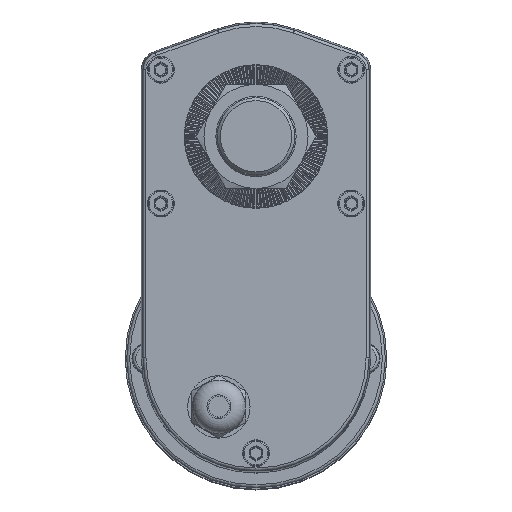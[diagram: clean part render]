
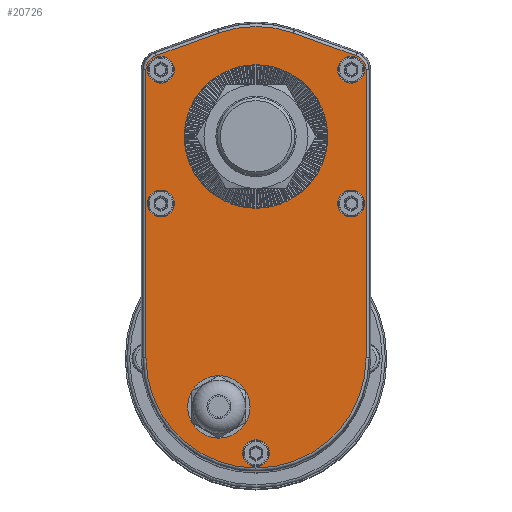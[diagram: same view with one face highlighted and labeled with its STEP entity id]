
A CAD part, top view. The second image highlights one B-rep face of the part: STEP entity #20726.
In plain terms, the highlighted planar face has unit normal (0, 0, 1).
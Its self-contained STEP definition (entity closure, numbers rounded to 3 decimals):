
#84 = VERTEX_POINT ( 'NONE', #15984 ) ;
#374 = DIRECTION ( 'NONE',  ( 0., 0., 1. ) ) ;
#1110 = CARTESIAN_POINT ( 'NONE',  ( 37.012, 22.46, 40. ) ) ;
#1162 = FACE_BOUND ( 'NONE', #12110, .T. ) ;
#1180 = DIRECTION ( 'NONE',  ( 0., -1., 0. ) ) ;
#1355 = LINE ( 'NONE', #34182, #29876 ) ;
#1380 = CARTESIAN_POINT ( 'NONE',  ( -32., -22.54, 40. ) ) ;
#1591 = EDGE_CURVE ( 'NONE', #28212, #28212, #35793, .T. ) ;
#1602 = ORIENTED_EDGE ( 'NONE', *, *, #15915, .F. ) ;
#2018 = FACE_BOUND ( 'NONE', #27541, .T. ) ;
#2158 = ORIENTED_EDGE ( 'NONE', *, *, #4596, .F. ) ;
#2237 = CARTESIAN_POINT ( 'NONE',  ( 37.012, 22.46, 40. ) ) ;
#2683 = VERTEX_POINT ( 'NONE', #13135 ) ;
#2939 = ORIENTED_EDGE ( 'NONE', *, *, #28926, .T. ) ;
#3372 = CIRCLE ( 'NONE', #31976, 4.5 ) ;
#3414 = AXIS2_PLACEMENT_3D ( 'NONE', #13577, #32843, #16307 ) ;
#3568 = CIRCLE ( 'NONE', #28495, 8.25 ) ;
#3706 = CIRCLE ( 'NONE', #30682, 5.017 ) ;
#4090 = CARTESIAN_POINT ( 'NONE',  ( 33.701, 27.179, 40. ) ) ;
#4142 = CARTESIAN_POINT ( 'NONE',  ( 0., -106.54, 40. ) ) ;
#4196 = DIRECTION ( 'NONE',  ( 1., 0., 0. ) ) ;
#4266 = CARTESIAN_POINT ( 'NONE',  ( 0., 0., 40. ) ) ;
#4596 = EDGE_CURVE ( 'NONE', #12697, #12697, #23162, .T. ) ;
#4718 = CARTESIAN_POINT ( 'NONE',  ( 12.586, 34.812, 40. ) ) ;
#5150 = EDGE_CURVE ( 'NONE', #33793, #33793, #3372, .T. ) ;
#5647 = AXIS2_PLACEMENT_3D ( 'NONE', #8149, #11073, #13836 ) ;
#5662 = CIRCLE ( 'NONE', #35450, 4.5 ) ;
#5757 = DIRECTION ( 'NONE',  ( 0., 0., 1. ) ) ;
#6092 = ORIENTED_EDGE ( 'NONE', *, *, #27889, .T. ) ;
#6404 = CARTESIAN_POINT ( 'NONE',  ( 37.012, -74.495, 40. ) ) ;
#6677 = CARTESIAN_POINT ( 'NONE',  ( -37.012, -74.495, 40. ) ) ;
#6946 = DIRECTION ( 'NONE',  ( 1., 0., 0. ) ) ;
#7836 = CARTESIAN_POINT ( 'NONE',  ( 32., 22.46, 40. ) ) ;
#8126 = CARTESIAN_POINT ( 'NONE',  ( -12.586, 34.812, 40. ) ) ;
#8149 = CARTESIAN_POINT ( 'NONE',  ( -32., 22.46, 40. ) ) ;
#8569 = FACE_BOUND ( 'NONE', #24080, .T. ) ;
#8845 = DIRECTION ( 'NONE',  ( 0., 0., 1. ) ) ;
#9182 = AXIS2_PLACEMENT_3D ( 'NONE', #10343, #29611, #13134 ) ;
#9664 = CARTESIAN_POINT ( 'NONE',  ( -33.701, 27.179, 40. ) ) ;
#9859 = ORIENTED_EDGE ( 'NONE', *, *, #33064, .T. ) ;
#9861 = PLANE ( 'NONE',  #14797 ) ;
#10343 = CARTESIAN_POINT ( 'NONE',  ( 31.995, 22.46, 40. ) ) ;
#10628 = DIRECTION ( 'NONE',  ( -1., 0., 0. ) ) ;
#10704 = VECTOR ( 'NONE', #20412, 1000. ) ;
#10804 = EDGE_CURVE ( 'NONE', #2683, #2683, #31597, .T. ) ;
#10823 = CARTESIAN_POINT ( 'NONE',  ( -24.1, 0., 40. ) ) ;
#11073 = DIRECTION ( 'NONE',  ( 0., 0., 1. ) ) ;
#11923 = EDGE_CURVE ( 'NONE', #23866, #23866, #5662, .T. ) ;
#11964 = DIRECTION ( 'NONE',  ( 0., 0., 1. ) ) ;
#12001 = CIRCLE ( 'NONE', #12471, 37.012 ) ;
#12110 = EDGE_LOOP ( 'NONE', ( #24276 ) ) ;
#12471 = AXIS2_PLACEMENT_3D ( 'NONE', #22253, #5757, #25065 ) ;
#12562 = ORIENTED_EDGE ( 'NONE', *, *, #23777, .T. ) ;
#12639 = DIRECTION ( 'NONE',  ( 0., 0., -1. ) ) ;
#12697 = VERTEX_POINT ( 'NONE', #26750 ) ;
#12856 = EDGE_LOOP ( 'NONE', ( #2158 ) ) ;
#12991 = AXIS2_PLACEMENT_3D ( 'NONE', #16941, #374, #19699 ) ;
#13134 = DIRECTION ( 'NONE',  ( -1., 0., 0. ) ) ;
#13135 = CARTESIAN_POINT ( 'NONE',  ( 4.5, -106.54, 40. ) ) ;
#13577 = CARTESIAN_POINT ( 'NONE',  ( 0., 0., 40. ) ) ;
#13836 = DIRECTION ( 'NONE',  ( 1., 0., 0. ) ) ;
#14783 = VERTEX_POINT ( 'NONE', #31346 ) ;
#14797 = AXIS2_PLACEMENT_3D ( 'NONE', #4266, #12639, #31874 ) ;
#15765 = CARTESIAN_POINT ( 'NONE',  ( 32., -22.54, 40. ) ) ;
#15863 = CARTESIAN_POINT ( 'NONE',  ( 27.5, -22.54, 40. ) ) ;
#15882 = FACE_BOUND ( 'NONE', #20275, .T. ) ;
#15902 = LINE ( 'NONE', #6677, #22346 ) ;
#15915 = EDGE_CURVE ( 'NONE', #84, #84, #3568, .T. ) ;
#15984 = CARTESIAN_POINT ( 'NONE',  ( -20.75, -90.966, 40. ) ) ;
#16307 = DIRECTION ( 'NONE',  ( -1., 0., 0. ) ) ;
#16941 = CARTESIAN_POINT ( 'NONE',  ( 0., 0., 40. ) ) ;
#17934 = ORIENTED_EDGE ( 'NONE', *, *, #5150, .F. ) ;
#17984 = LINE ( 'NONE', #1110, #10704 ) ;
#18514 = DIRECTION ( 'NONE',  ( -1., 0., 0. ) ) ;
#18667 = CIRCLE ( 'NONE', #12991, 24.1 ) ;
#19699 = DIRECTION ( 'NONE',  ( -1., 0., 0. ) ) ;
#20275 = EDGE_LOOP ( 'NONE', ( #17934 ) ) ;
#20386 = DIRECTION ( 'NONE',  ( -0.94, 0.34, 0. ) ) ;
#20412 = DIRECTION ( 'NONE',  ( 0., 1., 0. ) ) ;
#20698 = DIRECTION ( 'NONE',  ( 0., 0., 1. ) ) ;
#20726 = ADVANCED_FACE ( 'NONE', ( #2018, #23204, #8569, #15882, #24082, #1162, #29686, #22330 ), #9861, .F. ) ;
#20813 = EDGE_LOOP ( 'NONE', ( #21550 ) ) ;
#20919 = CARTESIAN_POINT ( 'NONE',  ( -37.012, -74.495, 40. ) ) ;
#21369 = ORIENTED_EDGE ( 'NONE', *, *, #24751, .F. ) ;
#21550 = ORIENTED_EDGE ( 'NONE', *, *, #1591, .F. ) ;
#21857 = VERTEX_POINT ( 'NONE', #2237 ) ;
#22253 = CARTESIAN_POINT ( 'NONE',  ( 0., -74.495, 40. ) ) ;
#22330 = FACE_BOUND ( 'NONE', #20813, .T. ) ;
#22346 = VECTOR ( 'NONE', #1180, 1000. ) ;
#22453 = DIRECTION ( 'NONE',  ( -0.94, -0.34, 0. ) ) ;
#23156 = VECTOR ( 'NONE', #22453, 1000. ) ;
#23162 = CIRCLE ( 'NONE', #26684, 4.5 ) ;
#23204 = FACE_OUTER_BOUND ( 'NONE', #32235, .T. ) ;
#23441 = DIRECTION ( 'NONE',  ( 0., 0., 1. ) ) ;
#23777 = EDGE_CURVE ( 'NONE', #28267, #31595, #33822, .T. ) ;
#23811 = EDGE_LOOP ( 'NONE', ( #30696 ) ) ;
#23866 = VERTEX_POINT ( 'NONE', #15863 ) ;
#23998 = VERTEX_POINT ( 'NONE', #4090 ) ;
#24080 = EDGE_LOOP ( 'NONE', ( #21369 ) ) ;
#24082 = FACE_BOUND ( 'NONE', #23811, .T. ) ;
#24276 = ORIENTED_EDGE ( 'NONE', *, *, #10804, .F. ) ;
#24751 = EDGE_CURVE ( 'NONE', #29877, #29877, #18667, .T. ) ;
#24901 = EDGE_CURVE ( 'NONE', #23998, #28267, #1355, .T. ) ;
#25065 = DIRECTION ( 'NONE',  ( -1., 0., 0. ) ) ;
#25370 = CARTESIAN_POINT ( 'NONE',  ( -12.5, -90.966, 40. ) ) ;
#25428 = AXIS2_PLACEMENT_3D ( 'NONE', #4142, #23441, #6946 ) ;
#26684 = AXIS2_PLACEMENT_3D ( 'NONE', #1380, #20698, #4196 ) ;
#26750 = CARTESIAN_POINT ( 'NONE',  ( -27.5, -22.54, 40. ) ) ;
#27155 = DIRECTION ( 'NONE',  ( 0., 0., 1. ) ) ;
#27541 = EDGE_LOOP ( 'NONE', ( #1602 ) ) ;
#27889 = EDGE_CURVE ( 'NONE', #21857, #23998, #32301, .T. ) ;
#28148 = DIRECTION ( 'NONE',  ( -1., 0., 0. ) ) ;
#28212 = VERTEX_POINT ( 'NONE', #34925 ) ;
#28267 = VERTEX_POINT ( 'NONE', #4718 ) ;
#28472 = CARTESIAN_POINT ( 'NONE',  ( -31.995, 22.46, 40. ) ) ;
#28495 = AXIS2_PLACEMENT_3D ( 'NONE', #25370, #8845, #28148 ) ;
#28631 = VERTEX_POINT ( 'NONE', #9664 ) ;
#28926 = EDGE_CURVE ( 'NONE', #35330, #29583, #12001, .T. ) ;
#29499 = CARTESIAN_POINT ( 'NONE',  ( 27.5, 22.46, 40. ) ) ;
#29567 = EDGE_CURVE ( 'NONE', #28631, #14783, #3706, .T. ) ;
#29583 = VERTEX_POINT ( 'NONE', #6404 ) ;
#29611 = DIRECTION ( 'NONE',  ( 0., 0., 1. ) ) ;
#29686 = FACE_BOUND ( 'NONE', #12856, .T. ) ;
#29876 = VECTOR ( 'NONE', #20386, 1000. ) ;
#29877 = VERTEX_POINT ( 'NONE', #10823 ) ;
#30500 = ORIENTED_EDGE ( 'NONE', *, *, #32669, .T. ) ;
#30682 = AXIS2_PLACEMENT_3D ( 'NONE', #28472, #11964, #31199 ) ;
#30696 = ORIENTED_EDGE ( 'NONE', *, *, #11923, .F. ) ;
#31199 = DIRECTION ( 'NONE',  ( -1., 0., 0. ) ) ;
#31346 = CARTESIAN_POINT ( 'NONE',  ( -37.012, 22.46, 40. ) ) ;
#31348 = LINE ( 'NONE', #33447, #23156 ) ;
#31595 = VERTEX_POINT ( 'NONE', #8126 ) ;
#31597 = CIRCLE ( 'NONE', #25428, 4.5 ) ;
#31855 = EDGE_CURVE ( 'NONE', #14783, #35330, #15902, .T. ) ;
#31874 = DIRECTION ( 'NONE',  ( -1., 0., 0. ) ) ;
#31976 = AXIS2_PLACEMENT_3D ( 'NONE', #7836, #27155, #10628 ) ;
#32235 = EDGE_LOOP ( 'NONE', ( #35002, #2939, #30500, #6092, #35811, #12562, #9859, #33689 ) ) ;
#32301 = CIRCLE ( 'NONE', #9182, 5.017 ) ;
#32669 = EDGE_CURVE ( 'NONE', #29583, #21857, #17984, .T. ) ;
#32843 = DIRECTION ( 'NONE',  ( 0., 0., 1. ) ) ;
#33064 = EDGE_CURVE ( 'NONE', #31595, #28631, #31348, .T. ) ;
#33447 = CARTESIAN_POINT ( 'NONE',  ( -33.701, 27.179, 40. ) ) ;
#33689 = ORIENTED_EDGE ( 'NONE', *, *, #29567, .T. ) ;
#33793 = VERTEX_POINT ( 'NONE', #29499 ) ;
#33822 = CIRCLE ( 'NONE', #3414, 37.017 ) ;
#34182 = CARTESIAN_POINT ( 'NONE',  ( 12.586, 34.812, 40. ) ) ;
#34925 = CARTESIAN_POINT ( 'NONE',  ( -27.5, 22.46, 40. ) ) ;
#35002 = ORIENTED_EDGE ( 'NONE', *, *, #31855, .T. ) ;
#35062 = DIRECTION ( 'NONE',  ( 0., 0., 1. ) ) ;
#35330 = VERTEX_POINT ( 'NONE', #20919 ) ;
#35450 = AXIS2_PLACEMENT_3D ( 'NONE', #15765, #35062, #18514 ) ;
#35793 = CIRCLE ( 'NONE', #5647, 4.5 ) ;
#35811 = ORIENTED_EDGE ( 'NONE', *, *, #24901, .T. ) ;
